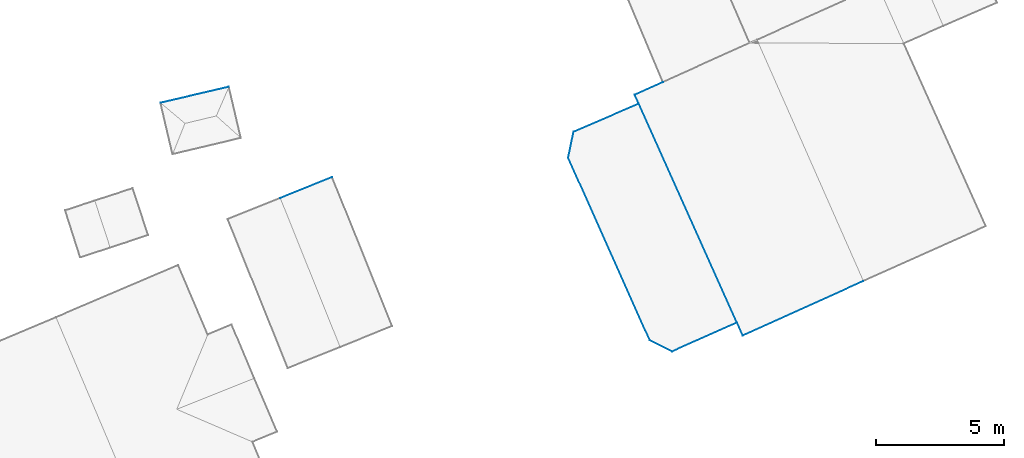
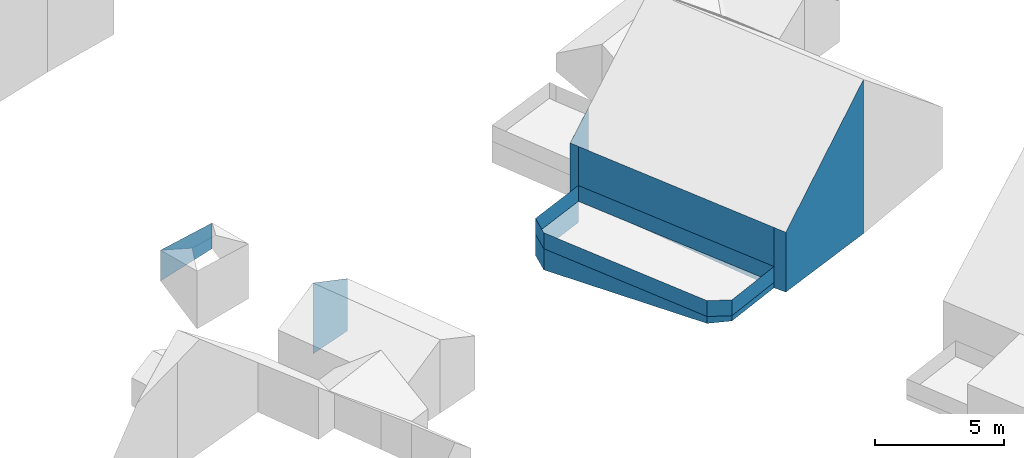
# Not in any storey, part 34 of 59: 24 walls.
"""IFC4 building model written with IfcOpenShell, lengths in metres."""

from ifc_helpers import new_model, entity, si_unit, converted_unit, frame, origin, place, context, subcontext, project, spatial, face_set, surface_model, element, save


model = new_model("IFC4")

# Units and contexts
model_context = context("Model", 3, precision=1e-05, world=origin())
body_context = subcontext(model_context, "Body", "Model", "MODEL_VIEW")
ifc_project = project(units=[converted_unit("PLANEANGLEUNIT", "DEGREE", entity("IfcRatioMeasure", 0.0174532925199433), si_unit("PLANEANGLEUNIT", "RADIAN"), dimensions=[0, 0, 0, 0, 0, 0, 0]), si_unit("AREAUNIT", "SQUARE_METRE"), si_unit("LENGTHUNIT", "METRE")], contexts=[model_context])

# Site, building
site_placement = place(None, origin())
site = spatial("IfcSite", under=ifc_project, at=site_placement, Name="_site")
building_1_placement = place(site_placement, origin())
building_1 = spatial("IfcBuilding", under=site, at=building_1_placement, Name="_building")

# Walls
wall_1_placement = place(building_1_placement, origin())
element("IfcWall", 1, at=wall_1_placement, inside=building_1, Name="Wall", PredefinedType="NOTDEFINED", context=body_context, shape_type="SurfaceModel", body=[
    surface_model("IfcFaceBasedSurfaceModel", [(237.55, 222.73, 223.34), (232.86, 220.609, 219.06), (232.86, 220.609, 216.235), (237.55, 222.73, 216.068)], [face_set([[[0, 1, 2, 3]]])]),
])
wall_2_placement = place(building_1_placement, origin())
element("IfcWall", 2, at=wall_2_placement, inside=building_1, Name="Wall", PredefinedType="NOTDEFINED", context=body_context, shape_type="SurfaceModel", body=[
    surface_model("IfcFaceBasedSurfaceModel", [(228.65, 229.98, 219.06), (229.751, 230.478, 220.043), (229.751, 230.478, 216.569), (228.65, 229.98, 216.581)], [face_set([[[0, 1, 2, 3]]])]),
])
wall_3_placement = place(building_1_placement, origin())
element("IfcWall", 3, at=wall_3_placement, inside=building_1, Name="Wall", PredefinedType="NOTDEFINED", context=body_context, shape_type="SurfaceModel", body=[
    surface_model("IfcFaceBasedSurfaceModel", [(228.81, 229.631, 219.06), (228.65, 229.98, 219.06), (228.65, 229.98, 216.581), (228.81, 229.631, 216.555)], [face_set([[[0, 1, 2, 3]]])]),
])
wall_4_placement = place(building_1_placement, origin())
element("IfcWall", 4, at=wall_4_placement, inside=building_1, Name="Wall", PredefinedType="NOTDEFINED", context=body_context, shape_type="SurfaceModel", body=[
    surface_model("IfcFaceBasedSurfaceModel", [(232.63, 221.119, 219.06), (228.81, 229.631, 219.06), (228.81, 229.631, 216.555), (232.63, 221.119, 216.21)], [face_set([[[0, 1, 2, 3]]])]),
])
wall_5_placement = place(building_1_placement, origin())
element("IfcWall", 5, at=wall_5_placement, inside=building_1, Name="Wall", PredefinedType="NOTDEFINED", context=body_context, shape_type="SurfaceModel", body=[
    surface_model("IfcFaceBasedSurfaceModel", [(232.86, 220.609, 219.06), (232.63, 221.119, 219.06), (232.63, 221.119, 216.21), (232.86, 220.609, 216.235)], [face_set([[[0, 1, 2, 3]]])]),
])
wall_6_placement = place(building_1_placement, origin())
element("IfcWall", 6, at=wall_6_placement, inside=building_1, Name="Wall", PredefinedType="NOTDEFINED", context=body_context, shape_type="SurfaceModel", body=[
    surface_model("IfcFaceBasedSurfaceModel", [(226.27, 228.539, 216.465), (228.81, 229.631, 216.465), (228.81, 229.631, 217.215), (226.27, 228.539, 217.215)], [face_set([[[0, 1, 2, 3]]])]),
])
wall_7_placement = place(building_1_placement, origin())
element("IfcWall", 7, at=wall_7_placement, inside=building_1, Name="Wall", PredefinedType="NOTDEFINED", context=body_context, shape_type="SurfaceModel", body=[
    surface_model("IfcFaceBasedSurfaceModel", [(226.06, 227.539, 216.465), (226.27, 228.539, 216.465), (226.27, 228.539, 217.215), (226.06, 227.539, 217.215)], [face_set([[[0, 1, 2, 3]]])]),
])
wall_8_placement = place(building_1_placement, origin())
element("IfcWall", 8, at=wall_8_placement, inside=building_1, Name="Wall", PredefinedType="NOTDEFINED", context=body_context, shape_type="SurfaceModel", body=[
    surface_model("IfcFaceBasedSurfaceModel", [(229.24, 220.42, 216.465), (226.06, 227.539, 216.465), (226.06, 227.539, 217.215), (229.24, 220.42, 217.215)], [face_set([[[0, 1, 2, 3]]])]),
])
wall_9_placement = place(building_1_placement, origin())
element("IfcWall", 9, at=wall_9_placement, inside=building_1, Name="Wall", PredefinedType="NOTDEFINED", context=body_context, shape_type="SurfaceModel", body=[
    surface_model("IfcFaceBasedSurfaceModel", [(230.1, 219.99, 216.465), (229.24, 220.42, 216.465), (229.24, 220.42, 217.215), (230.1, 219.99, 217.215)], [face_set([[[0, 1, 2, 3]]])]),
])
wall_10_placement = place(building_1_placement, origin())
element("IfcWall", 10, at=wall_10_placement, inside=building_1, Name="Wall", PredefinedType="NOTDEFINED", context=body_context, shape_type="SurfaceModel", body=[
    surface_model("IfcFaceBasedSurfaceModel", [(232.63, 221.119, 216.465), (230.1, 219.99, 216.465), (230.1, 219.99, 217.215), (232.63, 221.119, 217.215)], [face_set([[[0, 1, 2, 3]]])]),
])
wall_11_placement = place(building_1_placement, origin())
element("IfcWall", 11, at=wall_11_placement, inside=building_1, Name="Wall", PredefinedType="NOTDEFINED", context=body_context, shape_type="SurfaceModel", body=[
    surface_model("IfcFaceBasedSurfaceModel", [(226.27, 228.539, 216.465), (228.81, 229.631, 216.465), (228.81, 229.631, 217.215), (226.27, 228.539, 217.215)], [face_set([[[0, 1, 2, 3]]])]),
])
wall_12_placement = place(building_1_placement, origin())
element("IfcWall", 12, at=wall_12_placement, inside=building_1, Name="Wall", PredefinedType="NOTDEFINED", context=body_context, shape_type="SurfaceModel", body=[
    surface_model("IfcFaceBasedSurfaceModel", [(226.06, 227.539, 216.465), (226.27, 228.539, 216.465), (226.27, 228.539, 217.215), (226.06, 227.539, 217.215)], [face_set([[[0, 1, 2, 3]]])]),
])
wall_13_placement = place(building_1_placement, origin())
element("IfcWall", 13, at=wall_13_placement, inside=building_1, Name="Wall", PredefinedType="NOTDEFINED", context=body_context, shape_type="SurfaceModel", body=[
    surface_model("IfcFaceBasedSurfaceModel", [(229.24, 220.42, 216.465), (226.06, 227.539, 216.465), (226.06, 227.539, 217.215), (229.24, 220.42, 217.215)], [face_set([[[0, 1, 2, 3]]])]),
])
wall_14_placement = place(building_1_placement, origin())
element("IfcWall", 14, at=wall_14_placement, inside=building_1, Name="Wall", PredefinedType="NOTDEFINED", context=body_context, shape_type="SurfaceModel", body=[
    surface_model("IfcFaceBasedSurfaceModel", [(230.1, 219.99, 216.465), (229.24, 220.42, 216.465), (229.24, 220.42, 217.215), (230.1, 219.99, 217.215)], [face_set([[[0, 1, 2, 3]]])]),
])
wall_15_placement = place(building_1_placement, origin())
element("IfcWall", 15, at=wall_15_placement, inside=building_1, Name="Wall", PredefinedType="NOTDEFINED", context=body_context, shape_type="SurfaceModel", body=[
    surface_model("IfcFaceBasedSurfaceModel", [(232.63, 221.119, 216.465), (230.1, 219.99, 216.465), (230.1, 219.99, 217.215), (232.63, 221.119, 217.215)], [face_set([[[0, 1, 2, 3]]])]),
])
for number, where, name in (
    (16, (0.0, 0.0, 0.0), "Wall"),
    (17, (0.0, 0.0, 0.0), "Wall"),
):
    element("IfcWall", number, at=place(building_1_placement, frame(where)), inside=building_1, Name=name, PredefinedType="NOTDEFINED", context=body_context, shape_type="SurfaceModel", body=[
        surface_model("IfcFaceBasedSurfaceModel", [(228.81, 229.631, 216.465), (232.63, 221.119, 216.465), (232.63, 221.119, 217.215), (228.81, 229.631, 217.215)], [face_set([[[0, 1, 2, 3]]])]),
    ])
wall_16_placement = place(building_1_placement, origin())
element("IfcWall", 18, at=wall_16_placement, inside=building_1, Name="Wall", PredefinedType="NOTDEFINED", context=body_context, shape_type="SurfaceModel", body=[
    surface_model("IfcFaceBasedSurfaceModel", [(232.63, 221.119, 216.465), (230.1, 219.99, 216.465), (230.1, 219.99, 216.219), (232.63, 221.119, 216.21)], [face_set([[[0, 1, 2, 3]]])]),
])
wall_17_placement = place(building_1_placement, origin())
element("IfcWall", 19, at=wall_17_placement, inside=building_1, Name="Wall", PredefinedType="NOTDEFINED", context=body_context, shape_type="SurfaceModel", body=[
    surface_model("IfcFaceBasedSurfaceModel", [(230.1, 219.99, 216.465), (229.24, 220.42, 216.465), (229.24, 220.42, 216.14), (230.1, 219.99, 216.219)], [face_set([[[0, 1, 2, 3]]])]),
])
wall_18_placement = place(building_1_placement, origin())
element("IfcWall", 20, at=wall_18_placement, inside=building_1, Name="Wall", PredefinedType="NOTDEFINED", context=body_context, shape_type="SurfaceModel", body=[
    surface_model("IfcFaceBasedSurfaceModel", [(226.27, 228.539, 216.465), (228.81, 229.631, 216.465), (228.81, 229.631, 215.465), (226.27, 228.539, 215.465)], [face_set([[[0, 1, 2, 3]]])]),
])
wall_19_placement = place(building_1_placement, origin())
element("IfcWall", 21, at=wall_19_placement, inside=building_1, Name="Wall", PredefinedType="NOTDEFINED", context=body_context, shape_type="SurfaceModel", body=[
    surface_model("IfcFaceBasedSurfaceModel", [(226.06, 227.539, 216.465), (226.27, 228.539, 216.465), (226.27, 228.539, 215.465), (226.06, 227.539, 215.465)], [face_set([[[0, 1, 2, 3]]])]),
])
wall_20_placement = place(building_1_placement, origin())
element("IfcWall", 22, at=wall_20_placement, inside=building_1, Name="Wall", PredefinedType="NOTDEFINED", context=body_context, shape_type="SurfaceModel", body=[
    surface_model("IfcFaceBasedSurfaceModel", [(229.24, 220.42, 216.465), (226.06, 227.539, 216.465), (226.06, 227.539, 215.465), (229.24, 220.42, 216.14)], [face_set([[[0, 1, 2, 3]]])]),
])

# Building
building_2_placement = place(site_placement, origin())
building_2 = spatial("IfcBuilding", under=site, at=building_2_placement, Name="_building")

# Wall
wall_21_placement = place(building_2_placement, origin())
element("IfcWall", 23, at=wall_21_placement, inside=building_2, Name="Wall", PredefinedType="NOTDEFINED", context=body_context, shape_type="SurfaceModel", body=[
    surface_model("IfcFaceBasedSurfaceModel", [(210.19, 229.67, 220.66), (212.85, 230.289, 220.64), (212.85, 230.289, 219.426), (210.19, 229.67, 219.202)], [face_set([[[0, 1, 2, 3]]])]),
])

# Building
building_3_placement = place(site_placement, origin())
building_3 = spatial("IfcBuilding", under=site, at=building_3_placement, Name="_building")

# Wall
wall_22_placement = place(building_3_placement, origin())
element("IfcWall", 24, at=wall_22_placement, inside=building_3, Name="Wall", PredefinedType="NOTDEFINED", context=body_context, shape_type="SurfaceModel", body=[
    surface_model("IfcFaceBasedSurfaceModel", [(214.85, 225.961, 219.73), (216.87, 226.779, 218.73), (216.87, 226.779, 216.269), (214.85, 225.961, 216.373)], [face_set([[[0, 1, 2, 3]]])]),
])

save(model, "model.ifc")
